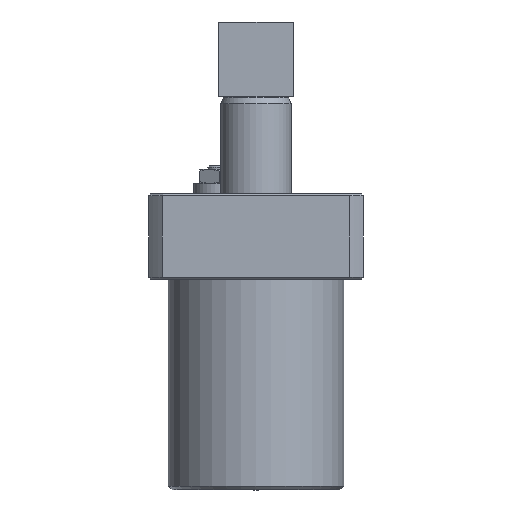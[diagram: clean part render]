
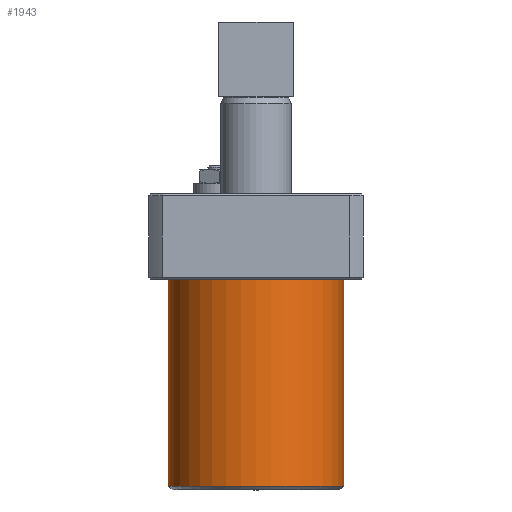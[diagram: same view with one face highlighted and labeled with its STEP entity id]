
A CAD part, left-side view. The second image highlights one B-rep face of the part: STEP entity #1943.
In plain terms, the highlighted cylindrical face has radius 22.5 mm (diameter 45 mm), a full revolution.
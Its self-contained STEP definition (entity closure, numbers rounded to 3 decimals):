
#165=CYLINDRICAL_SURFACE('',#2176,22.5);
#481=ORIENTED_EDGE('',*,*,#928,.T.);
#482=ORIENTED_EDGE('',*,*,#927,.F.);
#927=EDGE_CURVE('',#1164,#1164,#1331,.T.);
#928=EDGE_CURVE('',#1165,#1165,#1332,.T.);
#1164=VERTEX_POINT('',#3052);
#1165=VERTEX_POINT('',#3055);
#1331=CIRCLE('',#2175,22.5);
#1332=CIRCLE('',#2177,22.5);
#1464=EDGE_LOOP('',(#481));
#1465=EDGE_LOOP('',(#482));
#1688=FACE_BOUND('',#1464,.T.);
#1689=FACE_BOUND('',#1465,.T.);
#1943=ADVANCED_FACE('',(#1688,#1689),#165,.T.);
#2175=AXIS2_PLACEMENT_3D('',#3051,#2500,#2501);
#2176=AXIS2_PLACEMENT_3D('',#3053,#2502,#2503);
#2177=AXIS2_PLACEMENT_3D('',#3054,#2504,#2505);
#2500=DIRECTION('',(0.,0.,1.));
#2501=DIRECTION('',(0.,-1.,0.));
#2502=DIRECTION('',(0.,0.,1.));
#2503=DIRECTION('',(0.,-1.,0.));
#2504=DIRECTION('',(0.,0.,1.));
#2505=DIRECTION('',(1.,0.,0.));
#3051=CARTESIAN_POINT('',(0.,29.5,-6.));
#3052=CARTESIAN_POINT('',(0.,7.,-6.));
#3053=CARTESIAN_POINT('',(0.,29.5,-60.));
#3054=CARTESIAN_POINT('',(0.,29.5,-59.));
#3055=CARTESIAN_POINT('',(22.5,29.5,-59.));
